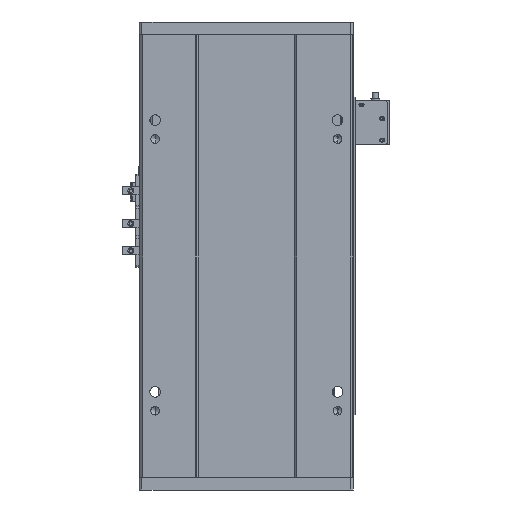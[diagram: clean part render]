
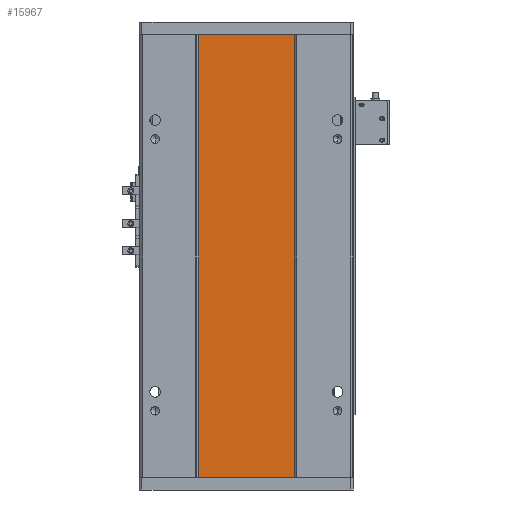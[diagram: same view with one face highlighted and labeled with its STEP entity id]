
A CAD part, front view. The second image highlights one B-rep face of the part: STEP entity #15967.
In plain terms, the highlighted planar face has unit normal (0, -1, 0).
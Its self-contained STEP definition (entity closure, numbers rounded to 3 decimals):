
#949 = EDGE_CURVE ( 'NONE', #12551, #21991, #19547, .T. ) ;
#1291 = LINE ( 'NONE', #19546, #9002 ) ;
#1375 = VERTEX_POINT ( 'NONE', #16613 ) ;
#3312 = CARTESIAN_POINT ( 'NONE',  ( 129.288, 16.9, 0. ) ) ;
#3366 = DIRECTION ( 'NONE',  ( 0., 1., 0. ) ) ;
#5227 = ORIENTED_EDGE ( 'NONE', *, *, #7022, .T. ) ;
#5958 = CARTESIAN_POINT ( 'NONE',  ( 205.288, 16.9, 0. ) ) ;
#7022 = EDGE_CURVE ( 'NONE', #1375, #12551, #15685, .T. ) ;
#7399 = VECTOR ( 'NONE', #22200, 1000. ) ;
#7926 = EDGE_LOOP ( 'NONE', ( #21630, #17968, #23153, #5227 ) ) ;
#8299 = CARTESIAN_POINT ( 'NONE',  ( 205.288, 16.9, 352. ) ) ;
#9002 = VECTOR ( 'NONE', #23576, 1000. ) ;
#10618 = VECTOR ( 'NONE', #23803, 1000. ) ;
#10854 = AXIS2_PLACEMENT_3D ( 'NONE', #24950, #3366, #23294 ) ;
#11656 = VECTOR ( 'NONE', #17905, 1000. ) ;
#12551 = VERTEX_POINT ( 'NONE', #3312 ) ;
#12598 = LINE ( 'NONE', #18080, #11656 ) ;
#13283 = EDGE_CURVE ( 'NONE', #1375, #18284, #12598, .T. ) ;
#14656 = FACE_OUTER_BOUND ( 'NONE', #7926, .T. ) ;
#15318 = PLANE ( 'NONE',  #10854 ) ;
#15685 = LINE ( 'NONE', #16641, #7399 ) ;
#15967 = ADVANCED_FACE ( 'NONE', ( #14656 ), #15318, .F. ) ;
#16613 = CARTESIAN_POINT ( 'NONE',  ( 129.288, 16.9, 352. ) ) ;
#16641 = CARTESIAN_POINT ( 'NONE',  ( 129.288, 16.9, 352. ) ) ;
#17905 = DIRECTION ( 'NONE',  ( 1., 0., 0. ) ) ;
#17968 = ORIENTED_EDGE ( 'NONE', *, *, #24647, .F. ) ;
#18080 = CARTESIAN_POINT ( 'NONE',  ( 129.288, 16.9, 352. ) ) ;
#18284 = VERTEX_POINT ( 'NONE', #8299 ) ;
#18484 = CARTESIAN_POINT ( 'NONE',  ( 205.288, 16.9, 0. ) ) ;
#19546 = CARTESIAN_POINT ( 'NONE',  ( 205.288, 16.9, 352. ) ) ;
#19547 = LINE ( 'NONE', #5958, #10618 ) ;
#21630 = ORIENTED_EDGE ( 'NONE', *, *, #949, .T. ) ;
#21991 = VERTEX_POINT ( 'NONE', #18484 ) ;
#22200 = DIRECTION ( 'NONE',  ( 0., 0., -1. ) ) ;
#23153 = ORIENTED_EDGE ( 'NONE', *, *, #13283, .F. ) ;
#23294 = DIRECTION ( 'NONE',  ( -1., 0., 0. ) ) ;
#23576 = DIRECTION ( 'NONE',  ( 0., 0., -1. ) ) ;
#23803 = DIRECTION ( 'NONE',  ( 1., 0., 0. ) ) ;
#24647 = EDGE_CURVE ( 'NONE', #18284, #21991, #1291, .T. ) ;
#24950 = CARTESIAN_POINT ( 'NONE',  ( 205.288, 16.9, 352. ) ) ;
